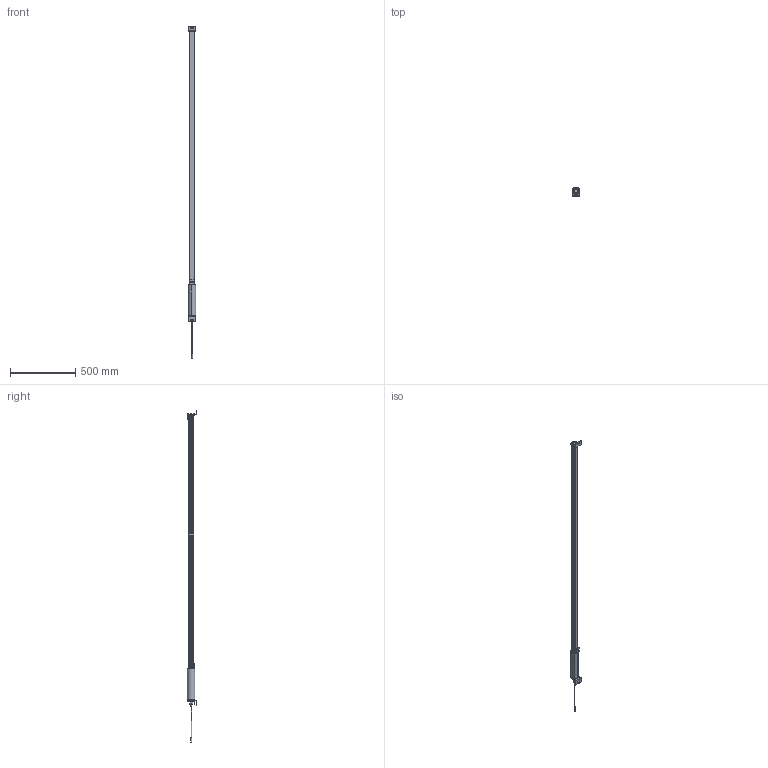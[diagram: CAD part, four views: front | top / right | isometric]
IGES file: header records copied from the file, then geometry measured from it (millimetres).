
Global section: file name: C:\ACADFILES\MG_PYLONS\CUSTOMER_FILES\MG-84-PYLON_3D_SMB.igs; native system: AutoCAD-18.2s (LMS Tech) (Microsoft Windows NT Version 6.1 (x86)); preprocessor: Autodesk IGES Translator Mechanical Desktop 2011 (Feb 18 2011) from Autodesk, Inc.; date: 20140327.120823; units: inch
Bounding box: 57.29 x 69.85 x 2540.37 mm (x, y, z)
Surface area: 967327.6 mm2 (no closed solid volume)
Topology: 0 solids, 0 shells, 1800 faces, 9329 edges, 9504 vertices
Faces by surface type: bspline 1800
